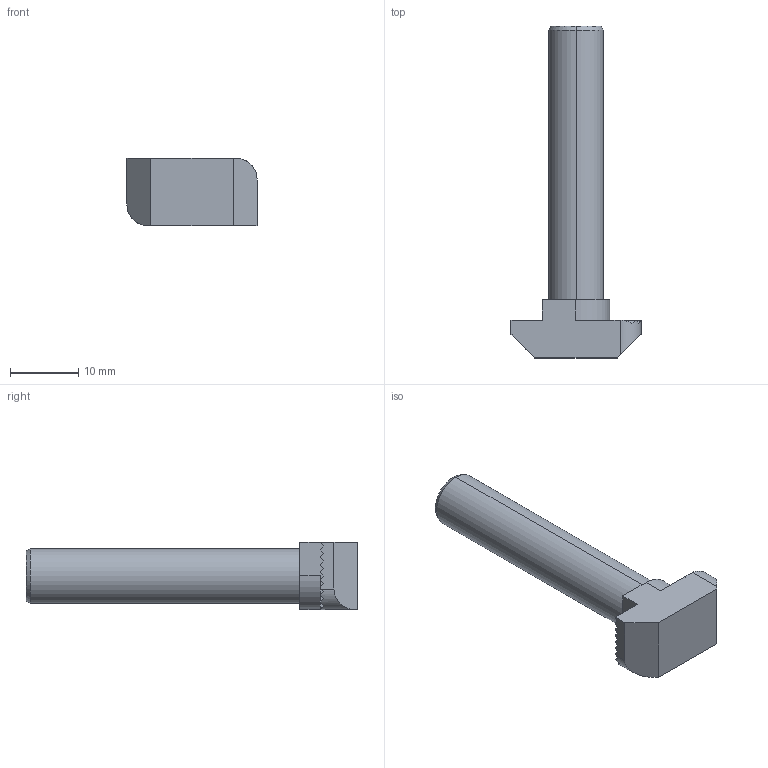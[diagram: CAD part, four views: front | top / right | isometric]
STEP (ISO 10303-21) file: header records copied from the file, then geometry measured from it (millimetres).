
FILE_DESCRIPTION (( 'STEP AP214' ), '1' );
FILE_NAME ('084.301.021.STEP', '2021-10-29T12:04:27', ( '' ), ( '' ), 'SwSTEP 2.0', 'SolidWorks 2018', '' );
FILE_SCHEMA (( 'AUTOMOTIVE_DESIGN' ));
Length unit declared in the file: millimetre
Products named in the file (1): 084.301.021
Bounding box: 19 x 48.5 x 9.8 mm (x, y, z)
Volume: 3137.9 mm3; surface area: 1746.8 mm2
Topology: 1 solids, 1 shells, 73 faces, 206 edges, 136 vertices
Faces by surface type: plane 65, cylinder 6, cone 2
Entity records: 2378 total; most frequent: CARTESIAN_POINT 458, ORIENTED_EDGE 412, DIRECTION 354, EDGE_CURVE 206, LINE 178, VECTOR 178, VERTEX_POINT 136, AXIS2_PLACEMENT_3D 88
